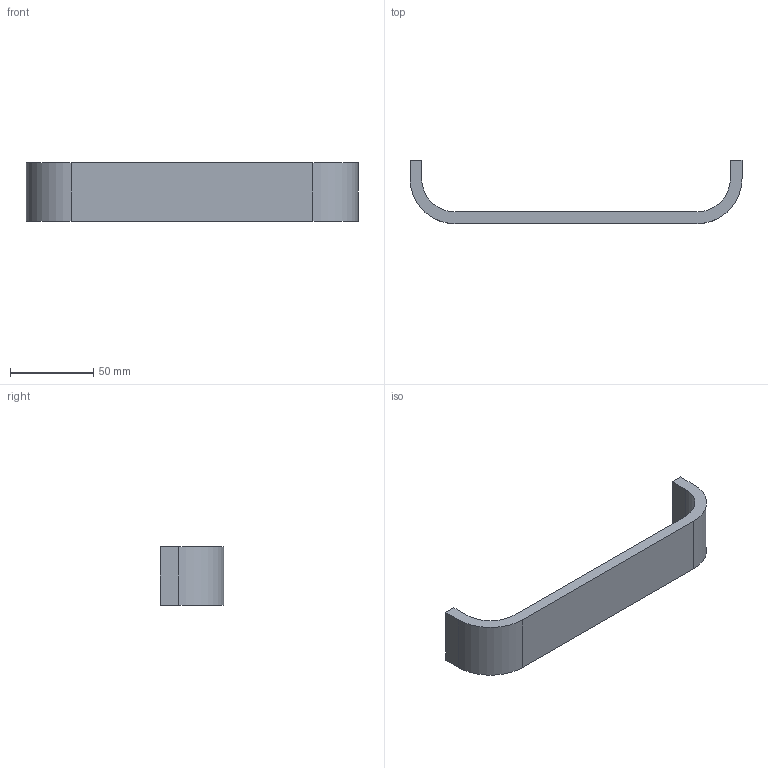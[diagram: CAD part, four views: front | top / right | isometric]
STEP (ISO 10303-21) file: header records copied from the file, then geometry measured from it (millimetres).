
FILE_DESCRIPTION( ( '' ), '1' );
FILE_NAME( 'C:/Documents and Settings/Sachin/Desktop/Sheet 10_1/stp/115080.stp', '2013-10-22T10:34:42', ( '' ), ( '' ), ' ', ' ', ' ' );
FILE_SCHEMA( ( 'CONFIG_CONTROL_DESIGN' ) );
Length unit declared in the file: millimetre
Products named in the file (1): 1
Bounding box: 199 x 38 x 35 mm (x, y, z)
Volume: 58801.7 mm3; surface area: 20920.6 mm2
Topology: 1 solids, 1 shells, 20 faces, 48 edges, 32 vertices
Faces by surface type: plane 12, cylinder 8
Entity records: 632 total; most frequent: DIRECTION 106, CARTESIAN_POINT 101, ORIENTED_EDGE 96, EDGE_CURVE 48, AXIS2_PLACEMENT_3D 37, VERTEX_POINT 32, LINE 32, VECTOR 32
